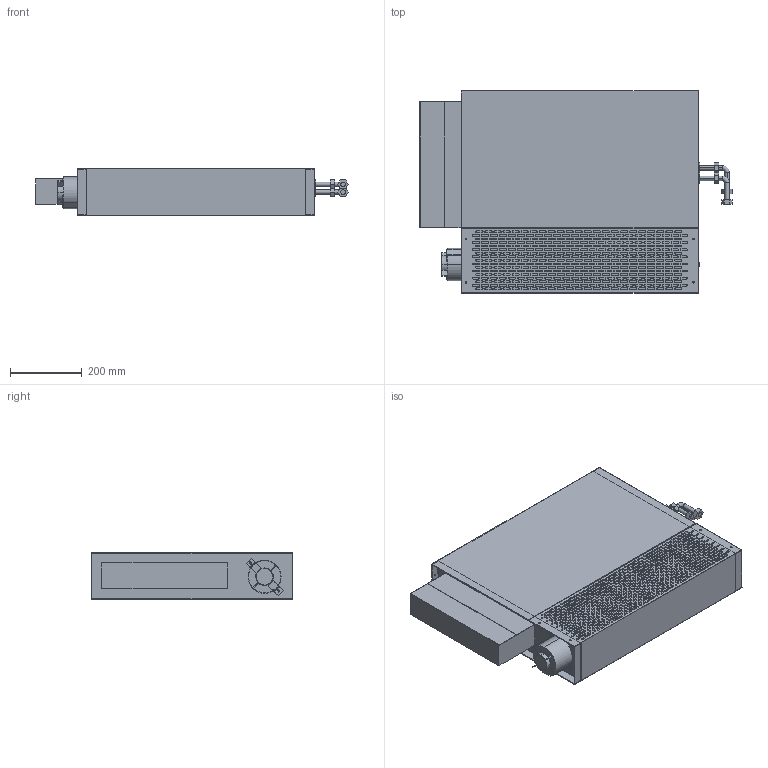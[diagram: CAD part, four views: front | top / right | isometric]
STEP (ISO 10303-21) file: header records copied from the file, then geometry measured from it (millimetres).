
FILE_DESCRIPTION (( 'STEP AP214' ), '1' );
FILE_NAME ('PFWSLA-02-2pipe_v2.STEP', '2024-10-22T13:50:17', ( '' ), ( '' ), 'SwSTEP 2.0', 'SolidWorks 2023', '' );
FILE_SCHEMA (( 'AUTOMOTIVE_DESIGN' ));
Length unit declared in the file: inch
Products named in the file (1): PFWSLA-02-2pipe_v2
Bounding box: 869.24 x 561.98 x 130.18 mm (x, y, z)
Volume: 14322511.4 mm3; surface area: 3230150.3 mm2
Topology: 24 solids, 24 shells, 3248 faces, 9034 edges, 6006 vertices
Faces by surface type: plane 1898, cylinder 1346, torus 4
Entity records: 106400 total; most frequent: CARTESIAN_POINT 18289, DIRECTION 18238, ORIENTED_EDGE 18068, EDGE_CURVE 9034, VECTOR 6328, LINE 6328, VERTEX_POINT 6006, AXIS2_PLACEMENT_3D 5955
